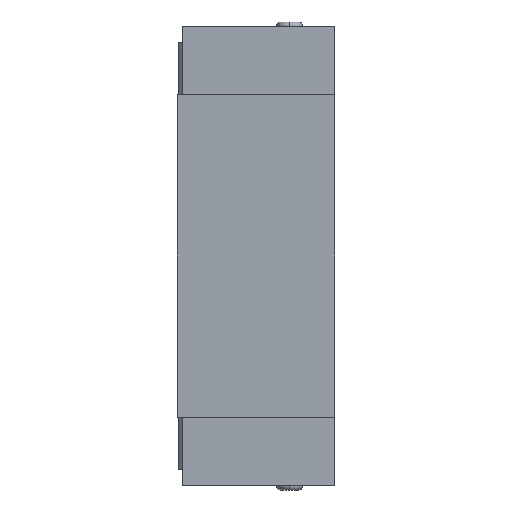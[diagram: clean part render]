
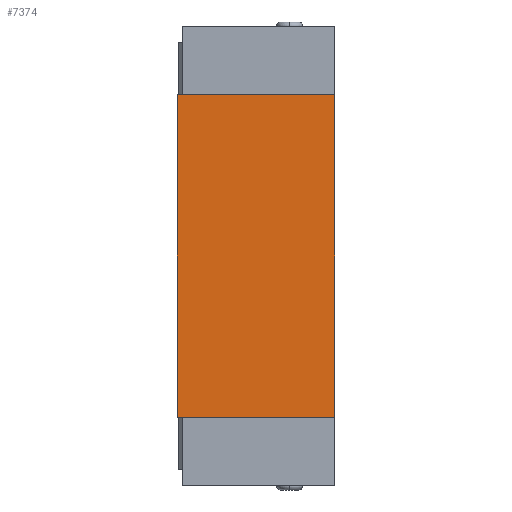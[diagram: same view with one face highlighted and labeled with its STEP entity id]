
A CAD part, left-side view. The second image highlights one B-rep face of the part: STEP entity #7374.
In plain terms, the highlighted planar face has unit normal (-1, 0, 0).
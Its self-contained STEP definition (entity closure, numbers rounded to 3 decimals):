
#254 = ORIENTED_EDGE ( 'NONE', *, *, #4288, .T. ) ;
#347 = VECTOR ( 'NONE', #1185, 1000. ) ;
#482 = DIRECTION ( 'NONE',  ( 0., 0., -1. ) ) ;
#520 = ORIENTED_EDGE ( 'NONE', *, *, #6982, .T. ) ;
#773 = VERTEX_POINT ( 'NONE', #4413 ) ;
#826 = FACE_OUTER_BOUND ( 'NONE', #2241, .T. ) ;
#900 = CARTESIAN_POINT ( 'NONE',  ( -17., 0., 39.8 ) ) ;
#1052 = DIRECTION ( 'NONE',  ( -1., 0., 0. ) ) ;
#1054 = ORIENTED_EDGE ( 'NONE', *, *, #3435, .F. ) ;
#1185 = DIRECTION ( 'NONE',  ( 0., -1., 0. ) ) ;
#1211 = CARTESIAN_POINT ( 'NONE',  ( -17., 0., 39.8 ) ) ;
#1301 = LINE ( 'NONE', #1211, #347 ) ;
#2231 = VERTEX_POINT ( 'NONE', #4065 ) ;
#2241 = EDGE_LOOP ( 'NONE', ( #4860, #1054, #254, #520 ) ) ;
#2295 = CARTESIAN_POINT ( 'NONE',  ( -17., 0., 0. ) ) ;
#3106 = EDGE_CURVE ( 'NONE', #2231, #4164, #6955, .T. ) ;
#3239 = VECTOR ( 'NONE', #482, 1000. ) ;
#3435 = EDGE_CURVE ( 'NONE', #773, #2231, #1301, .T. ) ;
#3453 = CARTESIAN_POINT ( 'NONE',  ( -17., -19.5, 0. ) ) ;
#4061 = CARTESIAN_POINT ( 'NONE',  ( -17., 0., 39.8 ) ) ;
#4065 = CARTESIAN_POINT ( 'NONE',  ( -17., -19.5, 39.8 ) ) ;
#4164 = VERTEX_POINT ( 'NONE', #3453 ) ;
#4288 = EDGE_CURVE ( 'NONE', #773, #6452, #6475, .T. ) ;
#4413 = CARTESIAN_POINT ( 'NONE',  ( -17., 0., 39.8 ) ) ;
#4860 = ORIENTED_EDGE ( 'NONE', *, *, #3106, .F. ) ;
#5231 = DIRECTION ( 'NONE',  ( 0., 0., 1. ) ) ;
#5929 = LINE ( 'NONE', #2295, #5988 ) ;
#5988 = VECTOR ( 'NONE', #7402, 1000. ) ;
#6289 = AXIS2_PLACEMENT_3D ( 'NONE', #4061, #1052, #5231 ) ;
#6452 = VERTEX_POINT ( 'NONE', #7659 ) ;
#6475 = LINE ( 'NONE', #900, #3239 ) ;
#6614 = DIRECTION ( 'NONE',  ( 0., 0., -1. ) ) ;
#6955 = LINE ( 'NONE', #7020, #7134 ) ;
#6982 = EDGE_CURVE ( 'NONE', #6452, #4164, #5929, .T. ) ;
#7020 = CARTESIAN_POINT ( 'NONE',  ( -17., -19.5, 39.8 ) ) ;
#7134 = VECTOR ( 'NONE', #6614, 1000. ) ;
#7374 = ADVANCED_FACE ( 'NONE', ( #826 ), #7444, .T. ) ;
#7402 = DIRECTION ( 'NONE',  ( 0., -1., 0. ) ) ;
#7444 = PLANE ( 'NONE',  #6289 ) ;
#7659 = CARTESIAN_POINT ( 'NONE',  ( -17., 0., 0. ) ) ;
